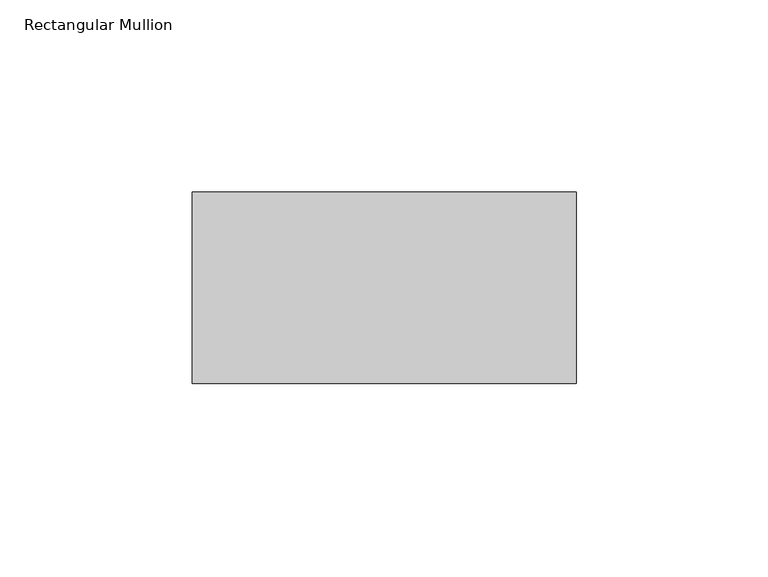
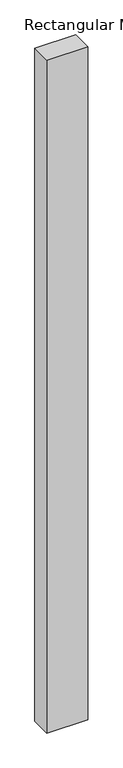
"""IFC4 building model written with IfcOpenShell, lengths in millimetres: member geometry, Rectangular Mullion : Mullion_Curtain Wall_Generic Showcase_50x100mm."""

from ifc_helpers import new_model, si_unit, frame, origin, place, context, project, spatial, polyline, outline, extrude, source, transform, mapped, element, save


def rectangular_mullion_5477e31e(model_context):
    return source(origin(), model_context, "Body", "SweptSolid", [
        extrude(outline(polyline([(0.0, 50.0), (0.0, 0.0), (-100.0, 0.0), (-100.0, 50.0), (0.0, 50.0)])), frame((0.0, 0.0, -1738.479996), z_axis=(0.0, 0.0, 1.0), x_axis=(1.0, 0.0, 0.0)), (0.0, 0.0, 1.0), 1738.479996),
    ])


if __name__ == "__main__":
    model = new_model("IFC4")
    model_context = context("Model", 3, world=origin())
    ifc_project = project(units=[si_unit("LENGTHUNIT", "METRE", prefix="MILLI")], contexts=[model_context])
    site = spatial("IfcSite", under=ifc_project)
    building = spatial("IfcBuilding", under=site)
    placement = place(None, origin())
    rectangular_mullion_shape = rectangular_mullion_5477e31e(model_context)
    element("IfcMember", 1, ObjectType="Rectangular Mullion : Mullion_Curtain Wall_Generic Showcase_50x100mm", at=placement, inside=building, context=model_context, shape_type="MappedRepresentation", body=[
        mapped(rectangular_mullion_shape, transform((0.0, 0.0, 0.0), x_axis=(1.0, 0.0, 0.0), y_axis=(0.0, 1.0, 0.0), z_axis=(0.0, 0.0, 1.0))),
    ])
    save(model, "model.ifc")
